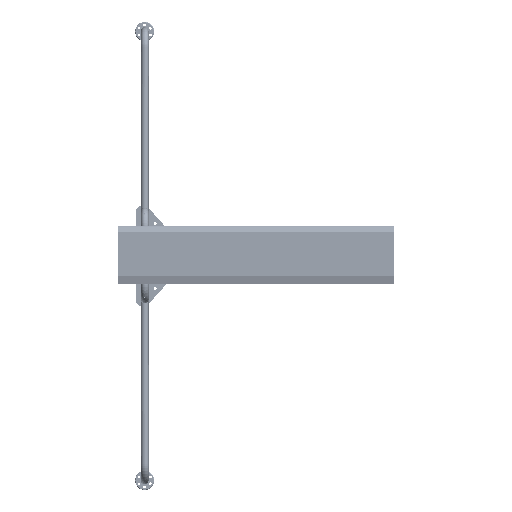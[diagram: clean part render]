
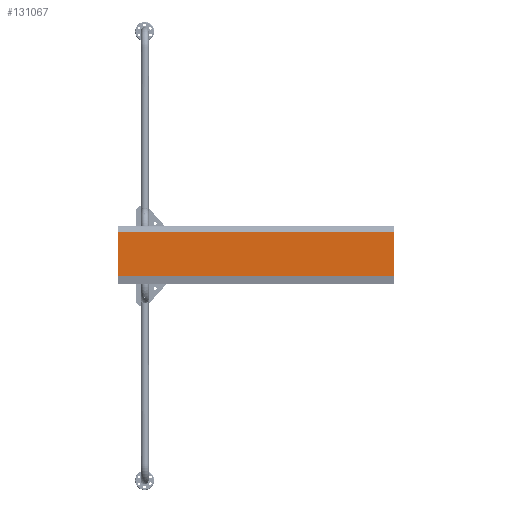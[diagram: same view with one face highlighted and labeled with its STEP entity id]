
A CAD part, top view. The second image highlights one B-rep face of the part: STEP entity #131067.
In plain terms, the highlighted planar face has unit normal (0, 0, 1).
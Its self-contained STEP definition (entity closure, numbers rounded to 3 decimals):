
#50741=ORIENTED_EDGE('',*,*,#69135,.F.);
#50742=ORIENTED_EDGE('',*,*,#69127,.T.);
#50743=ORIENTED_EDGE('',*,*,#69133,.F.);
#50744=ORIENTED_EDGE('',*,*,#69136,.T.);
#50745=ORIENTED_EDGE('',*,*,#69137,.F.);
#50746=ORIENTED_EDGE('',*,*,#69056,.T.);
#50747=ORIENTED_EDGE('',*,*,#69138,.F.);
#50748=ORIENTED_EDGE('',*,*,#69139,.T.);
#69056=EDGE_CURVE('',#80500,#80499,#88736,.T.);
#69127=EDGE_CURVE('',#80548,#80550,#88781,.T.);
#69133=EDGE_CURVE('',#80552,#80550,#88787,.T.);
#69135=EDGE_CURVE('',#80548,#80553,#88789,.T.);
#69136=EDGE_CURVE('',#80552,#80554,#88790,.T.);
#69137=EDGE_CURVE('',#80500,#80554,#88791,.T.);
#69138=EDGE_CURVE('',#80555,#80499,#88792,.T.);
#69139=EDGE_CURVE('',#80555,#80553,#88793,.T.);
#80499=VERTEX_POINT('',#245341);
#80500=VERTEX_POINT('',#245343);
#80548=VERTEX_POINT('',#245485);
#80550=VERTEX_POINT('',#245490);
#80552=VERTEX_POINT('',#245503);
#80553=VERTEX_POINT('',#245508);
#80554=VERTEX_POINT('',#245510);
#80555=VERTEX_POINT('',#245513);
#88736=LINE('',#245342,#96928);
#88781=LINE('',#245491,#96973);
#88787=LINE('',#245504,#96979);
#88789=LINE('',#245507,#96981);
#88790=LINE('',#245509,#96982);
#88791=LINE('',#245511,#96983);
#88792=LINE('',#245512,#96984);
#88793=LINE('',#245514,#96985);
#96928=VECTOR('',#186450,1000.);
#96973=VECTOR('',#186601,1000.);
#96979=VECTOR('',#186617,1000.);
#96981=VECTOR('',#186621,1000.);
#96982=VECTOR('',#186622,1000.);
#96983=VECTOR('',#186623,1000.);
#96984=VECTOR('',#186624,1000.);
#96985=VECTOR('',#186625,1000.);
#106912=EDGE_LOOP('',(#50741,#50742,#50743,#50744,#50745,#50746,#50747,
#50748));
#116917=FACE_BOUND('',#106912,.T.);
#120084=PLANE('',#147167);
#131067=ADVANCED_FACE('',(#116917),#120084,.F.);
#147167=AXIS2_PLACEMENT_3D('',#245506,#186619,#186620);
#186450=DIRECTION('',(1.,0.,0.));
#186601=DIRECTION('',(-1.,0.,0.));
#186617=DIRECTION('',(0.,1.,0.));
#186619=DIRECTION('',(0.,0.,-1.));
#186620=DIRECTION('',(0.,-1.,0.));
#186621=DIRECTION('',(0.,-1.,0.));
#186622=DIRECTION('',(0.,-1.,0.));
#186623=DIRECTION('',(0.,1.,0.));
#186624=DIRECTION('',(0.,-1.,0.));
#186625=DIRECTION('',(0.,1.,0.));
#245341=CARTESIAN_POINT('',(722.15,-107.13,209.988));
#245342=CARTESIAN_POINT('',(-724.15,-107.13,209.988));
#245343=CARTESIAN_POINT('',(-722.15,-107.13,209.988));
#245485=CARTESIAN_POINT('',(722.15,121.491,209.988));
#245490=CARTESIAN_POINT('',(-722.15,121.491,209.988));
#245491=CARTESIAN_POINT('',(724.15,121.491,209.988));
#245503=CARTESIAN_POINT('',(-722.15,121.489,209.988));
#245504=CARTESIAN_POINT('',(-722.15,121.489,209.988));
#245506=CARTESIAN_POINT('',(-724.15,122.274,209.988));
#245507=CARTESIAN_POINT('',(722.15,-107.128,209.988));
#245508=CARTESIAN_POINT('',(722.15,121.489,209.988));
#245509=CARTESIAN_POINT('',(-722.15,121.489,209.988));
#245510=CARTESIAN_POINT('',(-722.15,-107.128,209.988));
#245511=CARTESIAN_POINT('',(-722.15,121.489,209.988));
#245512=CARTESIAN_POINT('',(722.15,-107.128,209.988));
#245513=CARTESIAN_POINT('',(722.15,-107.128,209.988));
#245514=CARTESIAN_POINT('',(722.15,-107.128,209.988));
